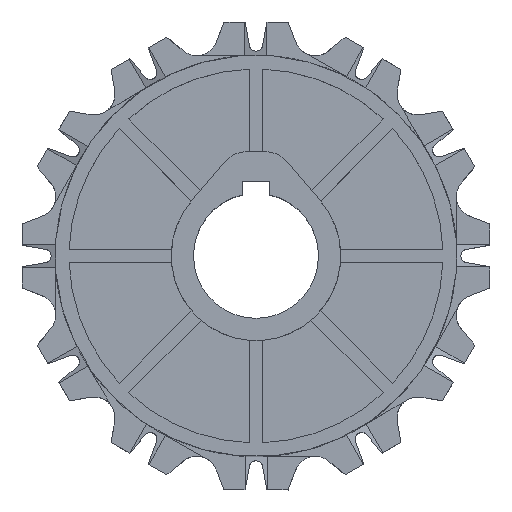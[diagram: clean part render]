
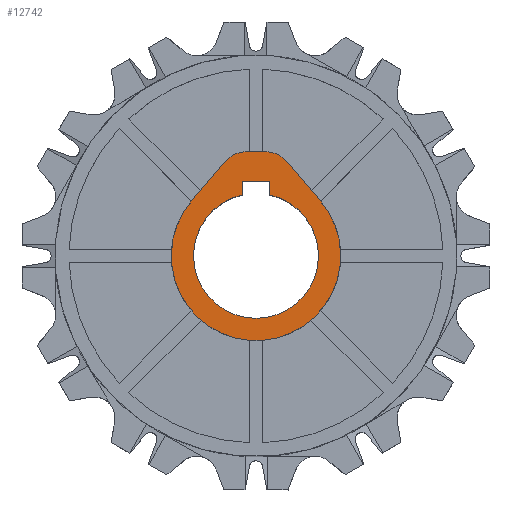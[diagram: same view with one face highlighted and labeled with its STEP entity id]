
A CAD part, top view. The second image highlights one B-rep face of the part: STEP entity #12742.
In plain terms, the highlighted planar face has unit normal (0, 0, 1).
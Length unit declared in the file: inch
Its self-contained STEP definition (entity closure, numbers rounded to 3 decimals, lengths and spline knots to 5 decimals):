
#1=DIRECTION('',(-1.,0.,0.));
#2=VECTOR('',#1,0.175);
#3=CARTESIAN_POINT('',(0.0875,0.9375,0.74));
#4=LINE('',#3,#2);
#5=CARTESIAN_POINT('',(0.0875,0.6875,0.74));
#6=DIRECTION('',(0.,0.,-1.));
#7=DIRECTION('',(0.,1.,0.));
#8=AXIS2_PLACEMENT_3D('',#5,#6,#7);
#10=DIRECTION('',(-0.649,0.761,0.));
#11=VECTOR('',#10,0.46654);
#12=CARTESIAN_POINT('',(0.58037,0.49454,0.74));
#13=LINE('',#12,#11);
#14=CARTESIAN_POINT('',(0.,0.,0.74));
#15=DIRECTION('',(0.,0.,-1.));
#16=DIRECTION('',(0.761,0.649,0.));
#17=AXIS2_PLACEMENT_3D('',#14,#15,#16);
#19=DIRECTION('',(-0.649,-0.761,0.));
#20=VECTOR('',#19,0.46654);
#21=CARTESIAN_POINT('',(-0.27779,0.84965,0.74));
#22=LINE('',#21,#20);
#23=CARTESIAN_POINT('',(-0.0875,0.6875,0.74));
#24=DIRECTION('',(0.,0.,-1.));
#25=DIRECTION('',(-0.761,0.649,0.));
#26=AXIS2_PLACEMENT_3D('',#23,#24,#25);
#28=DIRECTION('',(0.,-1.,0.));
#29=VECTOR('',#28,0.125);
#30=CARTESIAN_POINT('',(-0.125,0.67344,0.74));
#31=LINE('',#30,#29);
#32=CARTESIAN_POINT('',(0.,0.,0.74));
#33=DIRECTION('',(0.,0.,1.));
#34=DIRECTION('',(-0.222,0.975,0.));
#35=AXIS2_PLACEMENT_3D('',#32,#33,#34);
#37=DIRECTION('',(0.,1.,0.));
#38=VECTOR('',#37,0.125);
#39=CARTESIAN_POINT('',(0.125,0.54844,0.74));
#40=LINE('',#39,#38);
#41=DIRECTION('',(-1.,0.,0.));
#42=VECTOR('',#41,0.25);
#43=CARTESIAN_POINT('',(0.125,0.67344,0.74));
#44=LINE('',#43,#42);
#10669=CARTESIAN_POINT('',(0.0875,0.9375,0.74));
#10670=CARTESIAN_POINT('',(-0.0875,0.9375,0.74));
#10671=VERTEX_POINT('',#10669);
#10672=VERTEX_POINT('',#10670);
#10673=CARTESIAN_POINT('',(-0.27779,0.84965,0.74));
#10674=VERTEX_POINT('',#10673);
#10675=CARTESIAN_POINT('',(-0.58037,0.49454,0.74));
#10676=VERTEX_POINT('',#10675);
#10677=CARTESIAN_POINT('',(0.58037,0.49454,0.74));
#10678=VERTEX_POINT('',#10677);
#10679=CARTESIAN_POINT('',(0.27779,0.84965,0.74));
#10680=VERTEX_POINT('',#10679);
#12697=CARTESIAN_POINT('',(-0.125,0.67344,0.74));
#12698=CARTESIAN_POINT('',(-0.125,0.54844,0.74));
#12699=VERTEX_POINT('',#12697);
#12700=VERTEX_POINT('',#12698);
#12701=CARTESIAN_POINT('',(0.125,0.54844,0.74));
#12702=VERTEX_POINT('',#12701);
#12703=CARTESIAN_POINT('',(0.125,0.67344,0.74));
#12704=VERTEX_POINT('',#12703);
#12713=CARTESIAN_POINT('',(0.,0.,0.74));
#12714=DIRECTION('',(0.,0.,1.));
#12715=DIRECTION('',(1.,0.,0.));
#12716=AXIS2_PLACEMENT_3D('',#12713,#12714,#12715);
#12717=PLANE('',#12716);
#12719=ORIENTED_EDGE('',*,*,#12718,.F.);
#12721=ORIENTED_EDGE('',*,*,#12720,.T.);
#12723=ORIENTED_EDGE('',*,*,#12722,.F.);
#12725=ORIENTED_EDGE('',*,*,#12724,.T.);
#12727=ORIENTED_EDGE('',*,*,#12726,.F.);
#12729=ORIENTED_EDGE('',*,*,#12728,.T.);
#12730=EDGE_LOOP('',(#12719,#12721,#12723,#12725,#12727,#12729));
#12731=FACE_OUTER_BOUND('',#12730,.F.);
#12733=ORIENTED_EDGE('',*,*,#12732,.T.);
#12735=ORIENTED_EDGE('',*,*,#12734,.T.);
#12737=ORIENTED_EDGE('',*,*,#12736,.T.);
#12739=ORIENTED_EDGE('',*,*,#12738,.T.);
#12740=EDGE_LOOP('',(#12733,#12735,#12737,#12739));
#12741=FACE_BOUND('',#12740,.F.);
#12742=ADVANCED_FACE('',(#12731,#12741),#12717,.T.);
#9=CIRCLE('',#8,0.25);
#18=CIRCLE('',#17,0.7625);
#27=CIRCLE('',#26,0.25);
#36=CIRCLE('',#35,0.5625);
#12718=EDGE_CURVE('',#10671,#10672,#4,.T.);
#12720=EDGE_CURVE('',#10671,#10680,#9,.T.);
#12722=EDGE_CURVE('',#10678,#10680,#13,.T.);
#12724=EDGE_CURVE('',#10678,#10676,#18,.T.);
#12726=EDGE_CURVE('',#10674,#10676,#22,.T.);
#12728=EDGE_CURVE('',#10674,#10672,#27,.T.);
#12732=EDGE_CURVE('',#12699,#12700,#31,.T.);
#12734=EDGE_CURVE('',#12700,#12702,#36,.T.);
#12736=EDGE_CURVE('',#12702,#12704,#40,.T.);
#12738=EDGE_CURVE('',#12704,#12699,#44,.T.);
